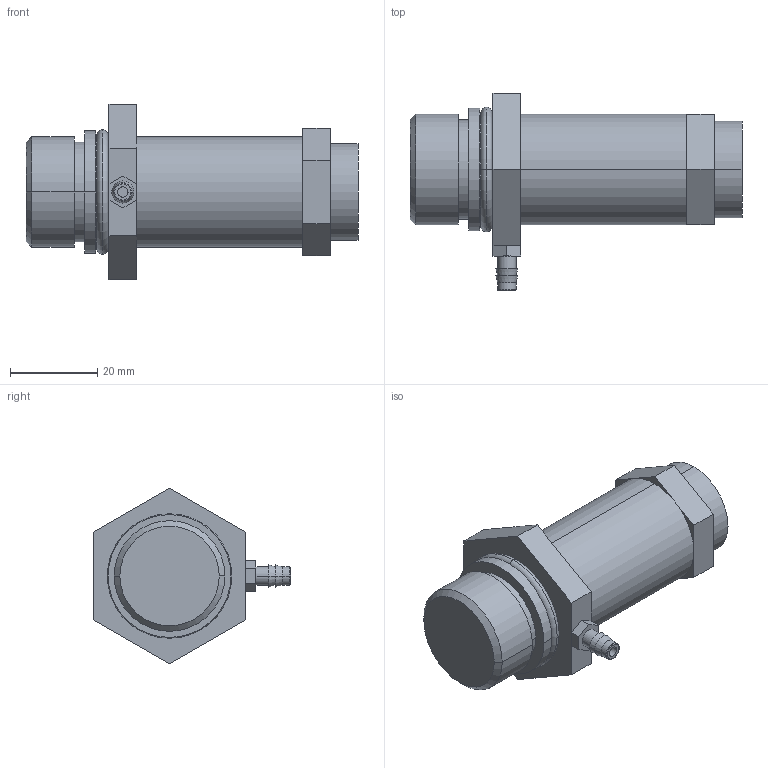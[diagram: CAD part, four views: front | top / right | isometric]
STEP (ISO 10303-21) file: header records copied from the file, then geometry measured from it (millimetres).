
FILE_DESCRIPTION((''),'2;1');
FILE_NAME('UG2_ASM','2017-08-24T',('jennifer.elliott'),('CenterLine (Windsor) Ltd - Automation Components Division'),'PRO/ENGINEER BY PARAMETRIC TECHNOLOGY CORPORATION, 2015030','PRO/ENGINEER BY PARAMETRIC TECHNOLOGY CORPORATION, 2015030','');
FILE_SCHEMA(('AUTOMOTIVE_DESIGN { 1 0 10303 214 1 1 1 1 }'));
Length unit declared in the file: inch
Products named in the file (7): PRT0164; PRT0165; PRT0166; PRT0167; PRT0168; TMP_DWG-3DSOLID_61; UG2_ASM
Assembly tree (6 placements, depth 2):
  UG2_ASM
    PRT0164
    PRT0165
    PRT0166
    PRT0167
    PRT0168
    TMP_DWG-3DSOLID_61
Bounding box: 76.2 x 45.24 x 40.33 mm (x, y, z)
Volume: 42124 mm3; surface area: 12791.7 mm2
Topology: 6 solids, 6 shells, 67 faces, 138 edges, 88 vertices
Faces by surface type: plane 35, cylinder 18, torus 8, cone 6
Entity records: 2228 total; most frequent: DIRECTION 358, CARTESIAN_POINT 325, ORIENTED_EDGE 276, AXIS2_PLACEMENT_3D 140, EDGE_CURVE 138, VERTEX_POINT 88, VECTOR 78, LINE 78
